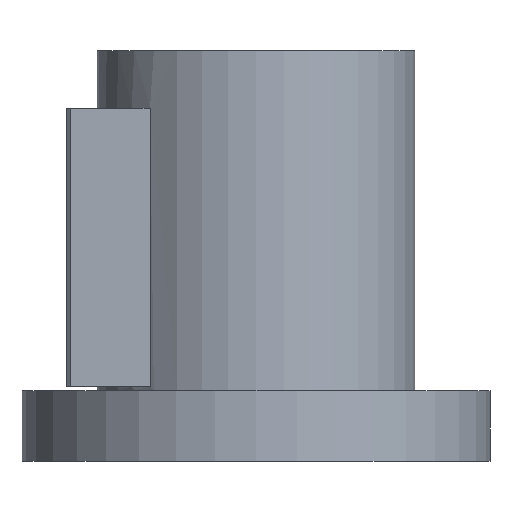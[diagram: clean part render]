
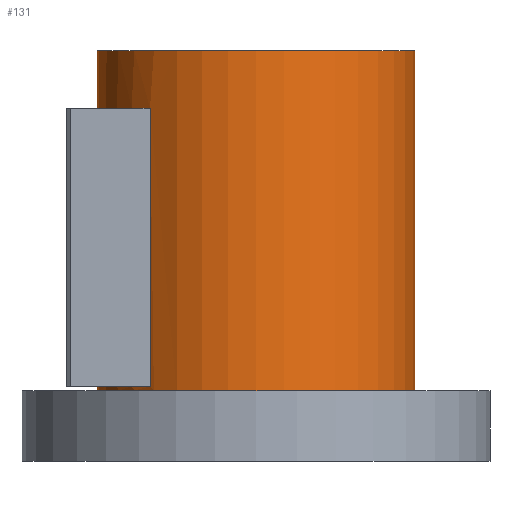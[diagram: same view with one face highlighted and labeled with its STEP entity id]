
A CAD part, front view. The second image highlights one B-rep face of the part: STEP entity #131.
In plain terms, the highlighted cylindrical face has radius 36 mm (diameter 72 mm), a full revolution.
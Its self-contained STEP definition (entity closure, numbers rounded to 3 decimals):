
#131=ADVANCED_FACE('',(#218,#219,#220),#161,.T.);
#161=CYLINDRICAL_SURFACE('',#550,36.);
#174=LINE('',#752,#196);
#175=LINE('',#756,#197);
#196=VECTOR('',#612,1.);
#197=VECTOR('',#615,1.);
#218=FACE_BOUND('',#263,.T.);
#219=FACE_BOUND('',#264,.T.);
#220=FACE_BOUND('',#265,.T.);
#263=EDGE_LOOP('',(#325));
#264=EDGE_LOOP('',(#326));
#265=EDGE_LOOP('',(#327,#328,#329,#330));
#325=ORIENTED_EDGE('',*,*,#467,.F.);
#326=ORIENTED_EDGE('',*,*,#468,.T.);
#327=ORIENTED_EDGE('',*,*,#469,.F.);
#328=ORIENTED_EDGE('',*,*,#470,.F.);
#329=ORIENTED_EDGE('',*,*,#471,.T.);
#330=ORIENTED_EDGE('',*,*,#472,.F.);
#425=VERTEX_POINT('',#746);
#426=VERTEX_POINT('',#748);
#427=VERTEX_POINT('',#750);
#428=VERTEX_POINT('',#751);
#429=VERTEX_POINT('',#753);
#430=VERTEX_POINT('',#755);
#467=EDGE_CURVE('',#425,#425,#517,.T.);
#468=EDGE_CURVE('',#426,#426,#518,.T.);
#469=EDGE_CURVE('',#427,#428,#519,.T.);
#470=EDGE_CURVE('',#429,#427,#174,.T.);
#471=EDGE_CURVE('',#429,#430,#520,.T.);
#472=EDGE_CURVE('',#428,#430,#175,.T.);
#517=CIRCLE('',#546,36.);
#518=CIRCLE('',#547,36.);
#519=CIRCLE('',#548,36.);
#520=CIRCLE('',#549,36.);
#546=AXIS2_PLACEMENT_3D('',#745,#606,#607);
#547=AXIS2_PLACEMENT_3D('',#747,#608,#609);
#548=AXIS2_PLACEMENT_3D('',#749,#610,#611);
#549=AXIS2_PLACEMENT_3D('',#754,#613,#614);
#550=AXIS2_PLACEMENT_3D('',#757,#616,#617);
#606=DIRECTION('',(0.,0.,1.));
#607=DIRECTION('',(1.,0.,0.));
#608=DIRECTION('',(0.,0.,1.));
#609=DIRECTION('',(1.,0.,0.));
#610=DIRECTION('',(0.,0.,-1.));
#611=DIRECTION('',(-1.,0.,0.));
#612=DIRECTION('',(0.,0.,1.));
#613=DIRECTION('',(0.,0.,-1.));
#614=DIRECTION('',(-1.,0.,0.));
#615=DIRECTION('',(0.,0.,-1.));
#616=DIRECTION('',(0.,0.,-1.));
#617=DIRECTION('',(-1.,0.,0.));
#745=CARTESIAN_POINT('',(0.,0.,93.));
#746=CARTESIAN_POINT('',(36.,0.,93.));
#747=CARTESIAN_POINT('',(0.,0.,16.));
#748=CARTESIAN_POINT('',(36.,0.,16.));
#749=CARTESIAN_POINT('',(0.,0.,80.));
#750=CARTESIAN_POINT('',(-24.,-26.833,80.));
#751=CARTESIAN_POINT('',(-24.,26.833,80.));
#752=CARTESIAN_POINT('',(-24.,-26.833,93.));
#753=CARTESIAN_POINT('',(-24.,-26.833,17.));
#754=CARTESIAN_POINT('',(0.,0.,17.));
#755=CARTESIAN_POINT('',(-24.,26.833,17.));
#756=CARTESIAN_POINT('',(-24.,26.833,93.));
#757=CARTESIAN_POINT('',(0.,0.,93.));
